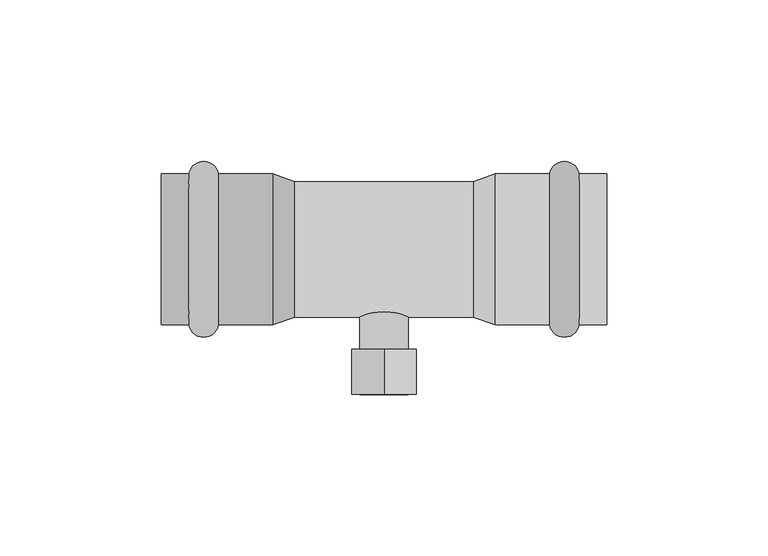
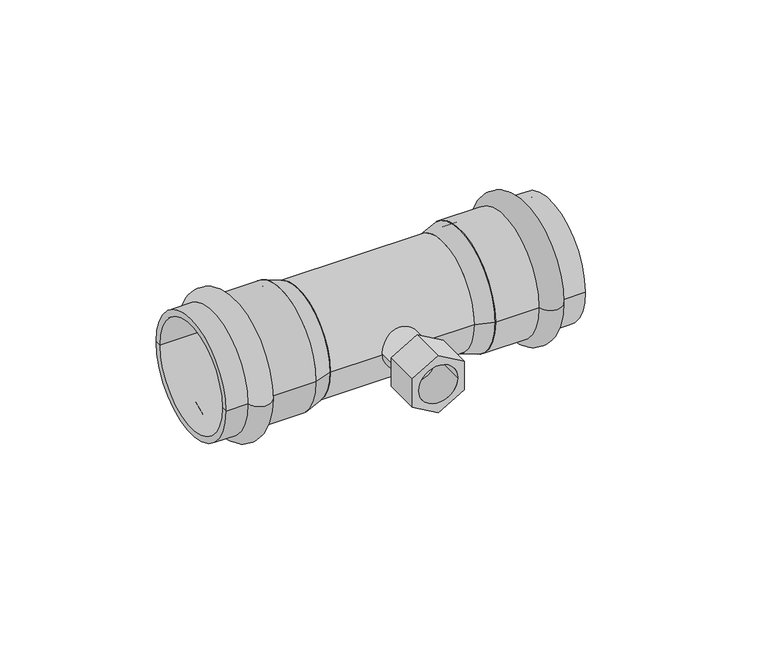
"""IFC4 building model written with IfcOpenShell, lengths in millimetres: pipe fitting geometry, VALTEC_VTi.932.I_Тройник с переходом на внутреннюю резьбу нержавеющая сталь : VTi.932.I."""

import ifcopenshell
import ifcopenshell.guid

model = None  # the IFC model being written
_history = None  # IfcOwnerHistory: only IFC2X3 demands one
_inside = {}  # id of a spatial element -> (the spatial element, [elements in it])
_under = {}  # id of a project, library or spatial element -> (it, [spatial elements below it])
_declared = {}  # id of a project -> (the project, [libraries it declares])
_typed = {}  # id of a type object -> (the type object, [elements of that type])
_made_of = {}  # id of a material, layer set ... -> (it, [elements and type objects made of it])


def new_model(schema):
    """Start an empty IFC model of exactly this schema.

    Asked for "IFC4X3", IfcOpenShell would pick the latest addendum, in which some entities
    have other attributes; the version numbers below select the first issue.
    IFC2X3 requires an IfcOwnerHistory on every rooted entity: one is made here for all.
    """
    global model, _history
    if schema == "IFC4X3":
        model = ifcopenshell.file(schema_version=(4, 3, 0, 0))
    else:
        model = ifcopenshell.file(schema=schema)
    _inside.clear()
    _under.clear()
    _declared.clear()
    _typed.clear()
    _made_of.clear()
    _history = None
    if model.schema == "IFC2X3":
        org = make("IfcOrganization", Name="unknown")
        user = make(
            "IfcPersonAndOrganization",
            ThePerson=make("IfcPerson", FamilyName="unknown"),
            TheOrganization=org,
        )
        app = make(
            "IfcApplication",
            ApplicationDeveloper=org,
            Version="unknown",
            ApplicationFullName="unknown",
            ApplicationIdentifier="unknown",
        )
        _history = make(
            "IfcOwnerHistory",
            OwningUser=user,
            OwningApplication=app,
            ChangeAction="ADDED",
            CreationDate=0,
        )
    return model


def make(cls, **values):
    """One entity of the class cls with the attributes given. An attribute that is None is left unset."""
    return model.create_entity(
        cls, **{name: value for name, value in values.items() if value is not None}
    )


def rooted(cls, **values):
    """An entity with a GlobalId (a new one), such as an element, a storey or a relation."""
    return make(cls, GlobalId=ifcopenshell.guid.new(), OwnerHistory=_history, **values)


def si_unit(unit_type, name, prefix=None):
    """IfcSIUnit, for example si_unit("LENGTHUNIT", "METRE", prefix="MILLI")."""
    return make("IfcSIUnit", UnitType=unit_type, Prefix=prefix, Name=name)


def assignment(units):
    """IfcUnitAssignment: the units of a project."""
    return None if units is None else make("IfcUnitAssignment", Units=units)


def point(xyz):
    """IfcCartesianPoint."""
    return None if xyz is None else make("IfcCartesianPoint", Coordinates=xyz)


def direction(xyz):
    """IfcDirection."""
    return None if xyz is None else make("IfcDirection", DirectionRatios=xyz)


def frame(location, z_axis=None, x_axis=None):
    """IfcAxis2Placement3D, a coordinate frame: its origin and axes. An axis left out is left unset."""
    return make(
        "IfcAxis2Placement3D",
        Location=point(location),
        Axis=direction(z_axis),
        RefDirection=direction(x_axis),
    )


def frame_2d(location, x_axis=None):
    """IfcAxis2Placement2D, a coordinate frame in the plane: its origin and x axis."""
    return make(
        "IfcAxis2Placement2D", Location=point(location), RefDirection=direction(x_axis)
    )


def origin():
    """The frame at (0, 0, 0) with its axes left unset."""
    return frame((0.0, 0.0, 0.0))


def origin_2d():
    """The frame at (0, 0) in the plane with its x axis left unset."""
    return frame_2d((0.0, 0.0))


def place(relative_to, where):
    """IfcLocalPlacement: puts the frame where relative to a parent placement (None: the world)."""
    return make(
        "IfcLocalPlacement", PlacementRelTo=relative_to, RelativePlacement=where
    )


def context(
    kind, dimensions, precision=None, world=None, true_north=None, identifier=None
):
    """IfcGeometricRepresentationContext, for example the 3D "Model" context."""
    return make(
        "IfcGeometricRepresentationContext",
        ContextIdentifier=identifier,
        ContextType=kind,
        CoordinateSpaceDimension=dimensions,
        Precision=precision,
        WorldCoordinateSystem=world,
        TrueNorth=true_north,
    )


def project(units=None, contexts=None):
    """IfcProject with its units and contexts."""
    return rooted(
        "IfcProject",
        Name="project",
        RepresentationContexts=contexts,
        UnitsInContext=assignment(units),
    )


def spatial(cls, under=None, at=None, **own):
    """A site, building, storey or space (cls), placed at a placement, below another one or the project."""
    s = rooted(cls, ObjectPlacement=at, **own)
    if under is not None:
        _under.setdefault(under.id(), (under, []))[1].append(s)
    return s


def polyline(points):
    """IfcPolyline through the points."""
    return make("IfcPolyline", Points=[point(p) for p in points])


def circle_curve(where, radius):
    """IfcCircle in the frame where."""
    return make("IfcCircle", Position=where, Radius=radius)


def ellipse_curve(where, semi_axis1, semi_axis2):
    """IfcEllipse in the frame where."""
    return make(
        "IfcEllipse", Position=where, SemiAxis1=semi_axis1, SemiAxis2=semi_axis2
    )


def trimmed(basis, trim1, trim2, sense, master):
    """IfcTrimmedCurve: the piece of a basis curve between two trims."""
    return make(
        "IfcTrimmedCurve",
        BasisCurve=basis,
        Trim1=trim1,
        Trim2=trim2,
        SenseAgreement=sense,
        MasterRepresentation=master,
    )


def segment(curve, same_sense, transition):
    """IfcCompositeCurveSegment."""
    return make(
        "IfcCompositeCurveSegment",
        Transition=transition,
        SameSense=same_sense,
        ParentCurve=curve,
    )


def composite_curve(segments, self_intersect=None):
    """IfcCompositeCurve: segments joined end to end."""
    return make("IfcCompositeCurve", Segments=segments, SelfIntersect=self_intersect)


def outline(outer, holes=None, kind="AREA"):
    """IfcArbitraryClosedProfileDef: a profile drawn as a closed curve; with holes, ...WithVoids."""
    if holes is None:
        return make("IfcArbitraryClosedProfileDef", ProfileType=kind, OuterCurve=outer)
    return make(
        "IfcArbitraryProfileDefWithVoids",
        ProfileType=kind,
        OuterCurve=outer,
        InnerCurves=holes,
    )


def extrude(swept, where, along, depth):
    """IfcExtrudedAreaSolid: the profile swept, set in the frame where, extruded along a direction by depth."""
    return make(
        "IfcExtrudedAreaSolid",
        SweptArea=swept,
        Position=where,
        ExtrudedDirection=direction(along),
        Depth=depth,
    )


def shape(context_of_items, identifier, shape_type, items):
    """IfcShapeRepresentation: the items that make up one representation, for example the "Body"."""
    return make(
        "IfcShapeRepresentation",
        ContextOfItems=context_of_items,
        RepresentationIdentifier=identifier,
        RepresentationType=shape_type,
        Items=items,
    )


def source(mapping_origin, context_of_items, identifier, shape_type, items):
    """IfcRepresentationMap: a shape defined once, which mapped items show again and again."""
    return make(
        "IfcRepresentationMap",
        MappingOrigin=mapping_origin,
        MappedRepresentation=shape(context_of_items, identifier, shape_type, items),
    )


def transform(
    local_origin,
    x_axis=None,
    y_axis=None,
    z_axis=None,
    scale=None,
    scale2=None,
    scale3=None,
    uniform=True,
):
    """IfcCartesianTransformationOperator3D, or its non-uniform kind. x_axis, y_axis, z_axis: its Axis1, 2, 3."""
    if uniform:
        return make(
            "IfcCartesianTransformationOperator3D",
            Axis1=direction(x_axis),
            Axis2=direction(y_axis),
            LocalOrigin=point(local_origin),
            Scale=scale,
            Axis3=direction(z_axis),
        )
    return make(
        "IfcCartesianTransformationOperator3DnonUniform",
        Axis1=direction(x_axis),
        Axis2=direction(y_axis),
        LocalOrigin=point(local_origin),
        Scale=scale,
        Axis3=direction(z_axis),
        Scale2=scale2,
        Scale3=scale3,
    )


def mapped(mapping_source, mapping_target):
    """IfcMappedItem: shows the shape of a source again, moved by a transform."""
    return make(
        "IfcMappedItem", MappingSource=mapping_source, MappingTarget=mapping_target
    )


def made_of(thing, what):
    """Note that an element or type object is made of a material, layer set ...; save() writes the relation."""
    if what is not None:
        _made_of.setdefault(what.id(), (what, []))[1].append(thing)
    return thing


def element(
    cls,
    number,
    at=None,
    inside=None,
    cuts=None,
    type_object=None,
    material=None,
    context=None,
    identifier="Body",
    shape_type=None,
    held_by="IfcProductDefinitionShape",
    body=None,
    shapes=None,
    **own,
):
    """One element of the class cls, such as IfcWall. Its Tag is "e" and its number.

    at: its placement. inside: the storey or other place that contains it. cuts: it is an
    opening in that element (IfcRelVoidsElement). A single representation is given by context,
    identifier, shape_type and body (its items); several are given by shapes. held_by: the class
    of the entity that holds the representations. save() writes the other relations.
    """
    e = rooted(cls, Tag="e%d" % number, ObjectPlacement=at, **own)
    if body is not None:
        shapes = [shape(context, identifier, shape_type, body)]
    if shapes is not None:
        e.Representation = make(held_by, Representations=shapes)
    if inside is not None:
        _inside.setdefault(inside.id(), (inside, []))[1].append(e)
    if cuts is not None:
        rooted(
            "IfcRelVoidsElement", RelatingBuildingElement=cuts, RelatedOpeningElement=e
        )
    if type_object is not None:
        _typed.setdefault(type_object.id(), (type_object, []))[1].append(e)
    return made_of(e, material)


def aggregate(whole, parts):
    """IfcRelAggregates: a whole, such as a stair, and the parts it consists of."""
    return rooted("IfcRelAggregates", RelatingObject=whole, RelatedObjects=parts)


def save(model, path):
    """Write the relations noted so far, then the file.

    IfcRelAggregates (storeys below a building ...), IfcRelContainedInSpatialStructure (elements
    in a storey), IfcRelDefinesByType, IfcRelAssociatesMaterial and IfcRelDeclares: one each for
    every whole, place, type object, material and project.
    """
    for whole, parts in _under.values():
        aggregate(whole, parts)
    for where, things in _inside.values():
        rooted(
            "IfcRelContainedInSpatialStructure",
            RelatedElements=things,
            RelatingStructure=where,
        )
    for kind, things in _typed.values():
        rooted("IfcRelDefinesByType", RelatedObjects=things, RelatingType=kind)
    for what, things in _made_of.values():
        rooted("IfcRelAssociatesMaterial", RelatedObjects=things, RelatingMaterial=what)
    for by, libraries in _declared.values():
        rooted("IfcRelDeclares", RelatingContext=by, RelatedDefinitions=libraries)
    model.write(path)


def plane_surface(at):
    """IfcPlane: the flat surface through the origin of the frame at, square to its z axis."""
    return make("IfcPlane", Position=at)


def cylinder_surface(at, radius):
    """IfcCylindricalSurface: all points at the distance radius from the z axis of the frame at."""
    return make("IfcCylindricalSurface", Position=at, Radius=radius)


def revolved_surface(curve, axis_point, axis_direction):
    """IfcSurfaceOfRevolution: the curve turned about the line through axis_point along axis_direction."""
    return make(
        "IfcSurfaceOfRevolution",
        SweptCurve=make("IfcArbitraryOpenProfileDef", ProfileType="CURVE", Curve=curve),
        AxisPosition=make("IfcAxis1Placement", Location=point(axis_point), Axis=direction(axis_direction)),
    )


def advanced_brep(points, edges, surfaces, faces):
    """IfcAdvancedBrep: a solid bounded by faces that lie on surfaces and meet in shared edges.

    An edge is (start, end): straight between two places in points (the first is 0);
    or (start, end, curve); or (start, end, curve, False) where it runs against its curve.
    A face is (place in surfaces, loops), or (place, loops, False) where it looks against
    its surface's normal. A loop lists edges by number (the first is 1), with a minus sign
    where the edge is run from its end to its start. The first loop is the outer one.
    """
    corners = [point(p) for p in points]
    vertices = [make("IfcVertexPoint", VertexGeometry=c) for c in corners]
    made = []
    for start, end, *more in edges:
        made.append(
            make(
                "IfcEdgeCurve",
                EdgeStart=vertices[start],
                EdgeEnd=vertices[end],
                EdgeGeometry=more[0] if more else make("IfcPolyline", Points=[corners[start], corners[end]]),
                SameSense=more[1] if len(more) > 1 else True,
            )
        )
    hull = []
    for where, loops, *sense in faces:
        bounds = []
        for j, loop in enumerate(loops):
            ring = [make("IfcOrientedEdge", EdgeElement=made[abs(k) - 1], Orientation=k > 0) for k in loop]
            bounds.append(
                make(
                    "IfcFaceOuterBound" if j == 0 else "IfcFaceBound",
                    Bound=make("IfcEdgeLoop", EdgeList=ring),
                    Orientation=True,
                )
            )
        hull.append(make("IfcAdvancedFace", Bounds=bounds, FaceSurface=surfaces[where], SameSense=sense[0] if sense else True))
    return make("IfcAdvancedBrep", Outer=make("IfcClosedShell", CfsFaces=hull))


def pipe_fitting_abcb37e9(model_context):
    return source(origin(), model_context, "Body", "SolidModel", [
        advanced_brep(
        [(60.4464272, 23.35, 0.0), (60.4464272, -23.35, 0.0), (51.3535728, -23.35, 0.0), (51.3535728, 23.35, 0.0), (69.0, 23.35, 0.0), (69.0, -23.35, 0.0), (69.0, 21.0, 0.0), (69.0, -21.0, 0.0), (34.5, 21.0, 0.0), (34.5, -21.0, 0.0), (34.5, 23.35, 0.0), (34.5, -23.35, 0.0)],
        [
            (0, 1, circle_curve(frame((60.4464272, 0.0, 0.0), z_axis=(-1.0, 0.0, 0.0), x_axis=(0.0, -1.0, 0.0)), 23.35)),
            (1, 2, circle_curve(frame((55.9, -22.65, 0.0), z_axis=(0.0, 0.0, -1.0), x_axis=(-1.0, 0.0, 0.0)), 4.6)),
            (2, 3, circle_curve(frame((51.3535728, 0.0, 0.0), z_axis=(1.0, 0.0, 0.0), x_axis=(0.0, -1.0, 0.0)), 23.35)),
            (3, 0, circle_curve(frame((55.9, 22.65, 0.0), z_axis=(0.0, 0.0, -1.0), x_axis=(-1.0, 0.0, 0.0)), 4.6)),
            (1, 0, circle_curve(frame((60.4464272, 0.0, 0.0), z_axis=(-1.0, 0.0, 0.0), x_axis=(0.0, -1.0, 0.0)), 23.35)),
            (3, 2, circle_curve(frame((51.3535728, 0.0, 0.0), z_axis=(1.0, 0.0, 0.0), x_axis=(0.0, -1.0, 0.0)), 23.35)),
            (4, 5, circle_curve(frame((69.0, 0.0, 0.0), z_axis=(-1.0, 0.0, 0.0), x_axis=(0.0, -1.0, 0.0)), 23.35)),
            (5, 1),
            (0, 4),
            (5, 4, circle_curve(frame((69.0, 0.0, 0.0), z_axis=(-1.0, 0.0, 0.0), x_axis=(0.0, -1.0, 0.0)), 23.35)),
            (6, 7, circle_curve(frame((69.0, 0.0, 0.0), z_axis=(-1.0, 0.0, 0.0), x_axis=(0.0, -1.0, 0.0)), 21.0)),
            (7, 5),
            (4, 6),
            (7, 6, circle_curve(frame((69.0, 0.0, 0.0), z_axis=(-1.0, 0.0, 0.0), x_axis=(0.0, -1.0, 0.0)), 21.0)),
            (8, 9, circle_curve(frame((34.5, 0.0, 0.0), z_axis=(-1.0, 0.0, 0.0), x_axis=(0.0, -1.0, 0.0)), 21.0)),
            (9, 7),
            (6, 8),
            (9, 8, circle_curve(frame((34.5, 0.0, 0.0), z_axis=(-1.0, 0.0, 0.0), x_axis=(0.0, -1.0, 0.0)), 21.0)),
            (10, 11, circle_curve(frame((34.5, 0.0, 0.0), z_axis=(-1.0, 0.0, 0.0), x_axis=(0.0, -1.0, 0.0)), 23.35)),
            (11, 9),
            (8, 10),
            (11, 10, circle_curve(frame((34.5, 0.0, 0.0), z_axis=(-1.0, 0.0, 0.0), x_axis=(0.0, -1.0, 0.0)), 23.35)),
            (2, 11),
            (10, 3),
        ],
        [
            revolved_surface(trimmed(ellipse_curve(frame((55.9, -22.65, 0.0), z_axis=(0.0, 0.0, 1.0), x_axis=(-1.0, 0.0, 0.0)), 4.6, 4.6), [point((51.3535728, -23.35, 0.0))], [point((60.4464272, -23.35, 0.0))], True, "CARTESIAN"), (72.5364426, 0.0, 0.0), (1.0, 0.0, 0.0)),
            cylinder_surface(frame((72.5364426, 0.0, 0.0), z_axis=(1.0, 0.0, 0.0), x_axis=(0.0, -1.0, 0.0)), 23.35),
            plane_surface(frame((69.0, 0.0, 0.0), z_axis=(1.0, 0.0, 0.0), x_axis=(0.0, -1.0, 0.0))),
            revolved_surface(polyline([(69.0, -21.0, 0.0), (34.5, -21.0, 0.0)]), (72.5364426, 0.0, 0.0), (1.0, 0.0, 0.0)),
            plane_surface(frame((34.5, 0.0, 0.0), z_axis=(-1.0, 0.0, 0.0), x_axis=(0.0, -1.0, 0.0))),
        ],
        [
            (0, [[1, 2, 3, 4]]),
            (0, [[5, -4, 6, -2]]),
            (1, [[7, 8, -1, 9]]),
            (1, [[10, -9, -5, -8]]),
            (2, [[11, 12, -7, 13]]),
            (2, [[14, -13, -10, -12]]),
            (3, [[15, 16, -11, 17]]),
            (3, [[18, -17, -14, -16]]),
            (4, [[19, 20, -15, 21]]),
            (4, [[22, -21, -18, -20]]),
            (1, [[-3, 23, -19, 24]]),
            (1, [[-6, -24, -22, -23]]),
        ],
    ),
        advanced_brep(
        [(-60.4464272, -23.35, 0.0), (-60.4464272, 23.35, 0.0), (-51.3535728, 23.35, 0.0), (-51.3535728, -23.35, 0.0), (-69.0, -23.35, 0.0), (-69.0, 23.35, 0.0), (-69.0, -21.0, 0.0), (-69.0, 21.0, 0.0), (-34.5, -21.0, 0.0), (-34.5, 21.0, 0.0), (-34.5, -23.35, 0.0), (-34.5, 23.35, 0.0)],
        [
            (0, 1, circle_curve(frame((-60.4464272, 0.0, 0.0), z_axis=(1.0, 0.0, 0.0), x_axis=(0.0, 1.0, 0.0)), 23.35)),
            (1, 2, circle_curve(frame((-55.9, 22.65, 0.0), z_axis=(0.0, 0.0, -1.0), x_axis=(1.0, 0.0, 0.0)), 4.6)),
            (2, 3, circle_curve(frame((-51.3535728, 0.0, 0.0), z_axis=(-1.0, 0.0, 0.0), x_axis=(0.0, 1.0, 0.0)), 23.35)),
            (3, 0, circle_curve(frame((-55.9, -22.65, 0.0), z_axis=(0.0, 0.0, -1.0), x_axis=(1.0, 0.0, 0.0)), 4.6)),
            (1, 0, circle_curve(frame((-60.4464272, 0.0, 0.0), z_axis=(1.0, 0.0, 0.0), x_axis=(0.0, 1.0, 0.0)), 23.35)),
            (3, 2, circle_curve(frame((-51.3535728, 0.0, 0.0), z_axis=(-1.0, 0.0, 0.0), x_axis=(0.0, 1.0, 0.0)), 23.35)),
            (4, 5, circle_curve(frame((-69.0, 0.0, 0.0), z_axis=(1.0, 0.0, 0.0), x_axis=(0.0, 1.0, 0.0)), 23.35)),
            (5, 1),
            (0, 4),
            (5, 4, circle_curve(frame((-69.0, 0.0, 0.0), z_axis=(1.0, 0.0, 0.0), x_axis=(0.0, 1.0, 0.0)), 23.35)),
            (6, 7, circle_curve(frame((-69.0, 0.0, 0.0), z_axis=(1.0, 0.0, 0.0), x_axis=(0.0, 1.0, 0.0)), 21.0)),
            (7, 5),
            (4, 6),
            (7, 6, circle_curve(frame((-69.0, 0.0, 0.0), z_axis=(1.0, 0.0, 0.0), x_axis=(0.0, 1.0, 0.0)), 21.0)),
            (8, 9, circle_curve(frame((-34.5, 0.0, 0.0), z_axis=(1.0, 0.0, 0.0), x_axis=(0.0, 1.0, 0.0)), 21.0)),
            (9, 7),
            (6, 8),
            (9, 8, circle_curve(frame((-34.5, 0.0, 0.0), z_axis=(1.0, 0.0, 0.0), x_axis=(0.0, 1.0, 0.0)), 21.0)),
            (10, 11, circle_curve(frame((-34.5, 0.0, 0.0), z_axis=(1.0, 0.0, 0.0), x_axis=(0.0, 1.0, 0.0)), 23.35)),
            (11, 9),
            (8, 10),
            (11, 10, circle_curve(frame((-34.5, 0.0, 0.0), z_axis=(1.0, 0.0, 0.0), x_axis=(0.0, 1.0, 0.0)), 23.35)),
            (2, 11),
            (10, 3),
        ],
        [
            revolved_surface(trimmed(ellipse_curve(frame((-55.9, 22.65, 0.0), z_axis=(0.0, 0.0, 1.0), x_axis=(1.0, 0.0, 0.0)), 4.6, 4.6), [point((-51.3535728, 23.35, 0.0))], [point((-60.4464272, 23.35, 0.0))], True, "CARTESIAN"), (-72.5364426, 0.0, 0.0), (-1.0, 0.0, 0.0)),
            cylinder_surface(frame((-72.5364426, 0.0, 0.0), z_axis=(-1.0, 0.0, 0.0), x_axis=(0.0, 1.0, 0.0)), 23.35),
            plane_surface(frame((-69.0, 0.0, 0.0), z_axis=(-1.0, 0.0, 0.0), x_axis=(0.0, 1.0, 0.0))),
            revolved_surface(polyline([(-69.0, 21.0, 0.0), (-34.5, 21.0, 0.0)]), (-72.5364426, 0.0, 0.0), (-1.0, 0.0, 0.0)),
            plane_surface(frame((-34.5, 0.0, 0.0), z_axis=(1.0, 0.0, 0.0), x_axis=(0.0, 1.0, 0.0))),
        ],
        [
            (0, [[1, 2, 3, 4]]),
            (0, [[5, -4, 6, -2]]),
            (1, [[7, 8, -1, 9]]),
            (1, [[10, -9, -5, -8]]),
            (2, [[11, 12, -7, 13]]),
            (2, [[14, -13, -10, -12]]),
            (3, [[15, 16, -11, 17]]),
            (3, [[18, -17, -14, -16]]),
            (4, [[19, 20, -15, 21]]),
            (4, [[22, -21, -18, -20]]),
            (1, [[-3, 23, -19, 24]]),
            (1, [[-6, -24, -22, -23]]),
        ],
    ),
        extrude(outline(polyline([(11.5470054, 0.0), (5.7735027, -10.0), (-5.7735027, -10.0), (-11.5470054, 0.0), (-5.7735027, 10.0), (5.7735027, 10.0), (11.5470054, 0.0)]), holes=[composite_curve([segment(trimmed(circle_curve(origin_2d(), 7.5), [point((0.0, -7.5))], [point((0.0, 7.5))], True, "CARTESIAN"), True, "CONTINUOUS"), segment(trimmed(circle_curve(origin_2d(), 7.5), [point((0.0, 7.5))], [point((0.0, -7.5))], True, "CARTESIAN"), True, "CONTINUOUS")], self_intersect=False)]), frame((0.0, -45.0, 0.0), z_axis=(0.0, 1.0, 0.0), x_axis=(0.0, 0.0, 1.0)), (0.0, 0.0, 1.0), 14.0),
        extrude(outline(composite_curve([segment(trimmed(circle_curve(origin_2d(), 7.5), [point((0.0, -7.5))], [point((0.0, 7.5))], False, "CARTESIAN"), True, "CONTINUOUS"), segment(trimmed(circle_curve(origin_2d(), 7.5), [point((0.0, 7.5))], [point((0.0, -7.5))], False, "CARTESIAN"), True, "CONTINUOUS")], self_intersect=False)), frame((0.0, -31.0, 0.0), z_axis=(0.0, 1.0, 0.0), x_axis=(0.0, 0.0, 1.0)), (0.0, 0.0, 1.0), 31.0),
        extrude(outline(composite_curve([segment(trimmed(circle_curve(origin_2d(), 21.0), [point((-21.0, 0.0))], [point((21.0, 0.0))], False, "CARTESIAN"), True, "CONTINUOUS"), segment(trimmed(circle_curve(origin_2d(), 21.0), [point((21.0, 0.0))], [point((-21.0, 0.0))], False, "CARTESIAN"), True, "CONTINUOUS")], self_intersect=False)), frame((-27.6, 0.0, 0.0), z_axis=(1.0, 0.0, 0.0), x_axis=(0.0, 1.0, 0.0)), (0.0, 0.0, 1.0), 55.2),
        advanced_brep(
        [(34.5, -23.35, 0.0), (34.5, 23.35, 0.0), (27.6, -21.0, 0.0), (27.6, 21.0, 0.0)],
        [
            (0, 1, circle_curve(frame((34.5, 0.0, 0.0), z_axis=(1.0, 0.0, 0.0), x_axis=(0.0, -1.0, 0.0)), 23.35)),
            (1, 0, circle_curve(frame((34.5, 0.0, 0.0), z_axis=(1.0, 0.0, 0.0), x_axis=(0.0, 1.0, 0.0)), 23.35)),
            (2, 3, circle_curve(frame((27.6, 0.0, 0.0), z_axis=(-1.0, 0.0, 0.0), x_axis=(0.0, 1.0, 0.0)), 21.0)),
            (3, 2, circle_curve(frame((27.6, 0.0, 0.0), z_axis=(-1.0, 0.0, 0.0), x_axis=(0.0, -1.0, 0.0)), 21.0)),
            (3, 1),
            (0, 2),
        ],
        [
            plane_surface(frame((34.5, 0.0, 0.0), z_axis=(1.0, 0.0, 0.0), x_axis=(0.0, 0.0, 1.0))),
            plane_surface(frame((27.6, 0.0, 0.0), z_axis=(-1.0, 0.0, 0.0), x_axis=(0.0, 0.0, 1.0))),
            revolved_surface(polyline([(27.6, 21.00000000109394, 0.0), (34.5, 23.35, 0.0)]), (-34.0595745, 0.0, 0.0), (1.0, 0.0, 0.0)),
            revolved_surface(polyline([(27.6, -21.00000000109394, 0.0), (34.5, -23.35, 0.0)]), (-34.0595745, 0.0, 0.0), (1.0, 0.0, 0.0)),
        ],
        [
            (0, [[1, 2]]),
            (1, [[3, 4]]),
            (2, [[-4, 5, -1, 6]]),
            (3, [[-3, -6, -2, -5]]),
        ],
    ),
        advanced_brep(
        [(-34.5, -23.35, 0.0), (-34.5, 23.35, 0.0), (-27.6, -21.0, 0.0), (-27.6, 21.0, 0.0)],
        [
            (0, 1, circle_curve(frame((-34.5, 0.0, 0.0), z_axis=(-1.0, 0.0, 0.0), x_axis=(0.0, -1.0, 0.0)), 23.35)),
            (1, 0, circle_curve(frame((-34.5, 0.0, 0.0), z_axis=(-1.0, 0.0, 0.0), x_axis=(0.0, 1.0, 0.0)), 23.35)),
            (2, 3, circle_curve(frame((-27.6, 0.0, 0.0), z_axis=(1.0, 0.0, 0.0), x_axis=(0.0, 1.0, 0.0)), 21.0)),
            (3, 2, circle_curve(frame((-27.6, 0.0, 0.0), z_axis=(1.0, 0.0, 0.0), x_axis=(0.0, -1.0, 0.0)), 21.0)),
            (2, 0),
            (1, 3),
        ],
        [
            plane_surface(frame((-34.5, 0.0, 0.0), z_axis=(-1.0, 0.0, 0.0), x_axis=(0.0, 0.0, -1.0))),
            plane_surface(frame((-27.6, 0.0, 0.0), z_axis=(1.0, 0.0, 0.0), x_axis=(0.0, 0.0, -1.0))),
            revolved_surface(polyline([(-27.6, -21.00000000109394, 0.0), (-34.5, -23.35, 0.0)]), (34.0595745, 0.0, 0.0), (-1.0, 0.0, 0.0)),
            revolved_surface(polyline([(-27.6, 21.00000000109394, 0.0), (-34.5, 23.35, 0.0)]), (34.0595745, 0.0, 0.0), (-1.0, 0.0, 0.0)),
        ],
        [
            (0, [[1, 2]]),
            (1, [[3, 4]]),
            (2, [[-3, 5, -2, 6]]),
            (3, [[-4, -6, -1, -5]]),
        ],
    ),
    ])


if __name__ == "__main__":
    model = new_model("IFC4")
    model_context = context("Model", 3, world=origin())
    ifc_project = project(units=[si_unit("LENGTHUNIT", "METRE", prefix="MILLI")], contexts=[model_context])
    site = spatial("IfcSite", under=ifc_project)
    building = spatial("IfcBuilding", under=site)
    placement = place(None, origin())
    pipe_fitting_shape = pipe_fitting_abcb37e9(model_context)
    element("IfcPipeFitting", 1, ObjectType="VALTEC_VTi.932.I_Тройник с переходом на внутреннюю резьбу нержавеющая сталь : VTi.932.I", at=placement, inside=building, context=model_context, shape_type="MappedRepresentation", body=[
        mapped(pipe_fitting_shape, transform((0.0, 0.0, 0.0), x_axis=(1.0, 0.0, 0.0), y_axis=(0.0, 1.0, 0.0), z_axis=(0.0, 0.0, 1.0))),
    ])
    save(model, "model.ifc")
